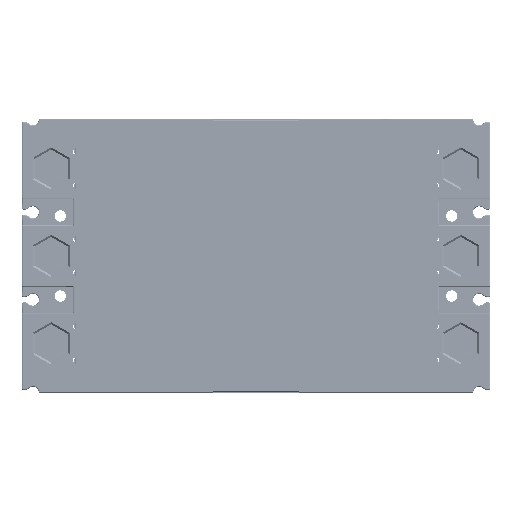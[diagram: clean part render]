
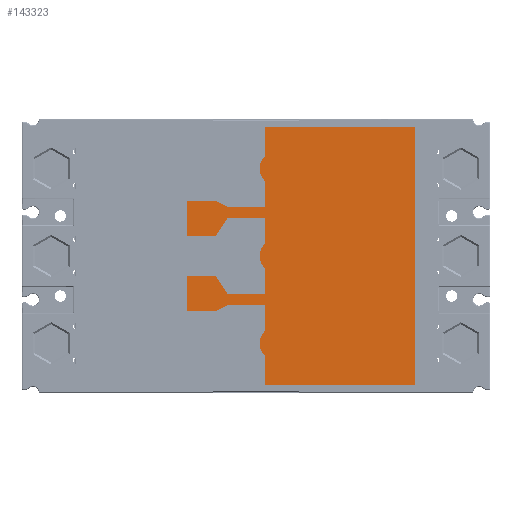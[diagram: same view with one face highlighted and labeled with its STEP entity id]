
A CAD part, front view. The second image highlights one B-rep face of the part: STEP entity #143323.
In plain terms, the highlighted planar face has unit normal (0, -1, 0) as drawn and (0, 0, -1) by its records, which use the part's own axes.
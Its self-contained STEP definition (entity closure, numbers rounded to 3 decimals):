
#142842=DIRECTION('',(0.,1.,0.));
#142843=VECTOR('',#142842,82.5);
#142844=CARTESIAN_POINT('',(71.,0.,0.));
#142845=LINE('',#142844,#142843);
#142846=DIRECTION('',(-1.,0.,0.));
#142847=VECTOR('',#142846,16.072);
#142848=CARTESIAN_POINT('',(71.,82.5,0.));
#142849=LINE('',#142848,#142847);
#142850=CARTESIAN_POINT('',(48.,76.,0.));
#142851=DIRECTION('',(0.,0.,1.));
#142852=DIRECTION('',(0.729,0.684,0.));
#142853=AXIS2_PLACEMENT_3D('',#142850,#142851,#142852);
#142855=DIRECTION('',(-1.,0.,0.));
#142856=VECTOR('',#142855,13.972);
#142857=CARTESIAN_POINT('',(41.072,82.5,0.));
#142858=LINE('',#142857,#142856);
#142859=DIRECTION('',(0.,1.,0.));
#142860=VECTOR('',#142859,20.5);
#142861=CARTESIAN_POINT('',(27.1,82.5,0.));
#142862=LINE('',#142861,#142860);
#142863=DIRECTION('',(0.436,0.9,0.));
#142864=VECTOR('',#142863,7.223);
#142865=CARTESIAN_POINT('',(27.1,103.,0.));
#142866=LINE('',#142865,#142864);
#142867=DIRECTION('',(0.,1.,0.));
#142868=VECTOR('',#142867,16.);
#142869=CARTESIAN_POINT('',(30.25,109.5,0.));
#142870=LINE('',#142869,#142868);
#142871=DIRECTION('',(-1.,0.,0.));
#142872=VECTOR('',#142871,19.);
#142873=CARTESIAN_POINT('',(30.25,125.5,0.));
#142874=LINE('',#142873,#142872);
#142875=DIRECTION('',(0.,-1.,0.));
#142876=VECTOR('',#142875,16.);
#142877=CARTESIAN_POINT('',(11.25,125.5,0.));
#142878=LINE('',#142877,#142876);
#142879=DIRECTION('',(0.829,-0.559,0.));
#142880=VECTOR('',#142879,11.635);
#142881=CARTESIAN_POINT('',(11.25,109.5,0.));
#142882=LINE('',#142881,#142880);
#142883=DIRECTION('',(0.,-1.,0.));
#142884=VECTOR('',#142883,20.5);
#142885=CARTESIAN_POINT('',(20.9,103.,0.));
#142886=LINE('',#142885,#142884);
#142887=DIRECTION('',(-1.,0.,0.));
#142888=VECTOR('',#142887,13.972);
#142889=CARTESIAN_POINT('',(20.9,82.5,0.));
#142890=LINE('',#142889,#142888);
#142891=CARTESIAN_POINT('',(0.,76.,0.));
#142892=DIRECTION('',(0.,0.,1.));
#142893=DIRECTION('',(0.729,0.684,0.));
#142894=AXIS2_PLACEMENT_3D('',#142891,#142892,#142893);
#142896=DIRECTION('',(-1.,0.,0.));
#142897=VECTOR('',#142896,13.972);
#142898=CARTESIAN_POINT('',(-6.928,82.5,0.));
#142899=LINE('',#142898,#142897);
#142900=DIRECTION('',(0.,1.,0.));
#142901=VECTOR('',#142900,20.5);
#142902=CARTESIAN_POINT('',(-20.9,82.5,0.));
#142903=LINE('',#142902,#142901);
#142904=DIRECTION('',(0.829,0.559,0.));
#142905=VECTOR('',#142904,11.635);
#142906=CARTESIAN_POINT('',(-20.9,103.,0.));
#142907=LINE('',#142906,#142905);
#142908=DIRECTION('',(0.,1.,0.));
#142909=VECTOR('',#142908,16.);
#142910=CARTESIAN_POINT('',(-11.25,109.5,0.));
#142911=LINE('',#142910,#142909);
#142912=DIRECTION('',(-1.,0.,0.));
#142913=VECTOR('',#142912,19.);
#142914=CARTESIAN_POINT('',(-11.25,125.5,0.));
#142915=LINE('',#142914,#142913);
#142916=DIRECTION('',(0.,-1.,0.));
#142917=VECTOR('',#142916,16.);
#142918=CARTESIAN_POINT('',(-30.25,125.5,0.));
#142919=LINE('',#142918,#142917);
#142920=DIRECTION('',(0.436,-0.9,0.));
#142921=VECTOR('',#142920,7.223);
#142922=CARTESIAN_POINT('',(-30.25,109.5,0.));
#142923=LINE('',#142922,#142921);
#142924=DIRECTION('',(0.,-1.,0.));
#142925=VECTOR('',#142924,20.5);
#142926=CARTESIAN_POINT('',(-27.1,103.,0.));
#142927=LINE('',#142926,#142925);
#142928=DIRECTION('',(-1.,0.,0.));
#142929=VECTOR('',#142928,13.972);
#142930=CARTESIAN_POINT('',(-27.1,82.5,0.));
#142931=LINE('',#142930,#142929);
#142932=CARTESIAN_POINT('',(-48.,76.,0.));
#142933=DIRECTION('',(0.,0.,1.));
#142934=DIRECTION('',(0.729,0.684,0.));
#142935=AXIS2_PLACEMENT_3D('',#142932,#142933,#142934);
#142937=DIRECTION('',(-1.,0.,0.));
#142938=VECTOR('',#142937,16.072);
#142939=CARTESIAN_POINT('',(-54.928,82.5,0.));
#142940=LINE('',#142939,#142938);
#142941=DIRECTION('',(0.,-1.,0.));
#142942=VECTOR('',#142941,82.5);
#142943=CARTESIAN_POINT('',(-71.,82.5,0.));
#142944=LINE('',#142943,#142942);
#142945=DIRECTION('',(-1.,0.,0.));
#142946=VECTOR('',#142945,142.);
#142947=CARTESIAN_POINT('',(71.,0.,0.));
#142948=LINE('',#142947,#142946);
#143160=CARTESIAN_POINT('',(71.,0.,0.));
#143161=CARTESIAN_POINT('',(-71.,0.,0.));
#143162=VERTEX_POINT('',#143160);
#143163=VERTEX_POINT('',#143161);
#143164=CARTESIAN_POINT('',(71.,82.5,0.));
#143165=VERTEX_POINT('',#143164);
#143166=CARTESIAN_POINT('',(54.928,82.5,0.));
#143167=VERTEX_POINT('',#143166);
#143168=CARTESIAN_POINT('',(41.072,82.5,0.));
#143169=VERTEX_POINT('',#143168);
#143170=CARTESIAN_POINT('',(27.1,82.5,0.));
#143171=VERTEX_POINT('',#143170);
#143172=CARTESIAN_POINT('',(27.1,103.,0.));
#143173=VERTEX_POINT('',#143172);
#143174=CARTESIAN_POINT('',(30.25,109.5,0.));
#143175=VERTEX_POINT('',#143174);
#143176=CARTESIAN_POINT('',(30.25,125.5,0.));
#143177=VERTEX_POINT('',#143176);
#143178=CARTESIAN_POINT('',(11.25,125.5,0.));
#143179=VERTEX_POINT('',#143178);
#143180=CARTESIAN_POINT('',(11.25,109.5,0.));
#143181=VERTEX_POINT('',#143180);
#143182=CARTESIAN_POINT('',(20.9,103.,0.));
#143183=VERTEX_POINT('',#143182);
#143184=CARTESIAN_POINT('',(20.9,82.5,0.));
#143185=VERTEX_POINT('',#143184);
#143186=CARTESIAN_POINT('',(6.928,82.5,0.));
#143187=VERTEX_POINT('',#143186);
#143188=CARTESIAN_POINT('',(-6.928,82.5,0.));
#143189=VERTEX_POINT('',#143188);
#143190=CARTESIAN_POINT('',(-20.9,82.5,0.));
#143191=VERTEX_POINT('',#143190);
#143192=CARTESIAN_POINT('',(-20.9,103.,0.));
#143193=VERTEX_POINT('',#143192);
#143194=CARTESIAN_POINT('',(-11.25,109.5,0.));
#143195=VERTEX_POINT('',#143194);
#143196=CARTESIAN_POINT('',(-11.25,125.5,0.));
#143197=VERTEX_POINT('',#143196);
#143198=CARTESIAN_POINT('',(-30.25,125.5,0.));
#143199=VERTEX_POINT('',#143198);
#143200=CARTESIAN_POINT('',(-30.25,109.5,0.));
#143201=VERTEX_POINT('',#143200);
#143202=CARTESIAN_POINT('',(-27.1,103.,0.));
#143203=VERTEX_POINT('',#143202);
#143204=CARTESIAN_POINT('',(-27.1,82.5,0.));
#143205=VERTEX_POINT('',#143204);
#143206=CARTESIAN_POINT('',(-41.072,82.5,0.));
#143207=VERTEX_POINT('',#143206);
#143208=CARTESIAN_POINT('',(-54.928,82.5,0.));
#143209=VERTEX_POINT('',#143208);
#143210=CARTESIAN_POINT('',(-71.,82.5,0.));
#143211=VERTEX_POINT('',#143210);
#143264=CARTESIAN_POINT('',(0.,0.,0.));
#143265=DIRECTION('',(0.,0.,1.));
#143266=DIRECTION('',(1.,0.,0.));
#143267=AXIS2_PLACEMENT_3D('',#143264,#143265,#143266);
#143268=PLANE('',#143267);
#143270=ORIENTED_EDGE('',*,*,#143269,.F.);
#143272=ORIENTED_EDGE('',*,*,#143271,.T.);
#143274=ORIENTED_EDGE('',*,*,#143273,.T.);
#143276=ORIENTED_EDGE('',*,*,#143275,.T.);
#143278=ORIENTED_EDGE('',*,*,#143277,.T.);
#143280=ORIENTED_EDGE('',*,*,#143279,.T.);
#143282=ORIENTED_EDGE('',*,*,#143281,.T.);
#143284=ORIENTED_EDGE('',*,*,#143283,.T.);
#143286=ORIENTED_EDGE('',*,*,#143285,.T.);
#143288=ORIENTED_EDGE('',*,*,#143287,.T.);
#143290=ORIENTED_EDGE('',*,*,#143289,.T.);
#143292=ORIENTED_EDGE('',*,*,#143291,.T.);
#143294=ORIENTED_EDGE('',*,*,#143293,.T.);
#143296=ORIENTED_EDGE('',*,*,#143295,.T.);
#143298=ORIENTED_EDGE('',*,*,#143297,.T.);
#143300=ORIENTED_EDGE('',*,*,#143299,.T.);
#143302=ORIENTED_EDGE('',*,*,#143301,.T.);
#143304=ORIENTED_EDGE('',*,*,#143303,.T.);
#143306=ORIENTED_EDGE('',*,*,#143305,.T.);
#143308=ORIENTED_EDGE('',*,*,#143307,.T.);
#143310=ORIENTED_EDGE('',*,*,#143309,.T.);
#143312=ORIENTED_EDGE('',*,*,#143311,.T.);
#143314=ORIENTED_EDGE('',*,*,#143313,.T.);
#143316=ORIENTED_EDGE('',*,*,#143315,.T.);
#143318=ORIENTED_EDGE('',*,*,#143317,.T.);
#143320=ORIENTED_EDGE('',*,*,#143319,.T.);
#143321=EDGE_LOOP('',(#143270,#143272,#143274,#143276,#143278,#143280,#143282,
#143284,#143286,#143288,#143290,#143292,#143294,#143296,#143298,#143300,#143302,
#143304,#143306,#143308,#143310,#143312,#143314,#143316,#143318,#143320));
#143322=FACE_OUTER_BOUND('',#143321,.F.);
#143323=ADVANCED_FACE('',(#143322),#143268,.F.);
#142854=CIRCLE('',#142853,9.5);
#142895=CIRCLE('',#142894,9.5);
#142936=CIRCLE('',#142935,9.5);
#143269=EDGE_CURVE('',#143162,#143163,#142948,.T.);
#143271=EDGE_CURVE('',#143162,#143165,#142845,.T.);
#143273=EDGE_CURVE('',#143165,#143167,#142849,.T.);
#143275=EDGE_CURVE('',#143167,#143169,#142854,.T.);
#143277=EDGE_CURVE('',#143169,#143171,#142858,.T.);
#143279=EDGE_CURVE('',#143171,#143173,#142862,.T.);
#143281=EDGE_CURVE('',#143173,#143175,#142866,.T.);
#143283=EDGE_CURVE('',#143175,#143177,#142870,.T.);
#143285=EDGE_CURVE('',#143177,#143179,#142874,.T.);
#143287=EDGE_CURVE('',#143179,#143181,#142878,.T.);
#143289=EDGE_CURVE('',#143181,#143183,#142882,.T.);
#143291=EDGE_CURVE('',#143183,#143185,#142886,.T.);
#143293=EDGE_CURVE('',#143185,#143187,#142890,.T.);
#143295=EDGE_CURVE('',#143187,#143189,#142895,.T.);
#143297=EDGE_CURVE('',#143189,#143191,#142899,.T.);
#143299=EDGE_CURVE('',#143191,#143193,#142903,.T.);
#143301=EDGE_CURVE('',#143193,#143195,#142907,.T.);
#143303=EDGE_CURVE('',#143195,#143197,#142911,.T.);
#143305=EDGE_CURVE('',#143197,#143199,#142915,.T.);
#143307=EDGE_CURVE('',#143199,#143201,#142919,.T.);
#143309=EDGE_CURVE('',#143201,#143203,#142923,.T.);
#143311=EDGE_CURVE('',#143203,#143205,#142927,.T.);
#143313=EDGE_CURVE('',#143205,#143207,#142931,.T.);
#143315=EDGE_CURVE('',#143207,#143209,#142936,.T.);
#143317=EDGE_CURVE('',#143209,#143211,#142940,.T.);
#143319=EDGE_CURVE('',#143211,#143163,#142944,.T.);
